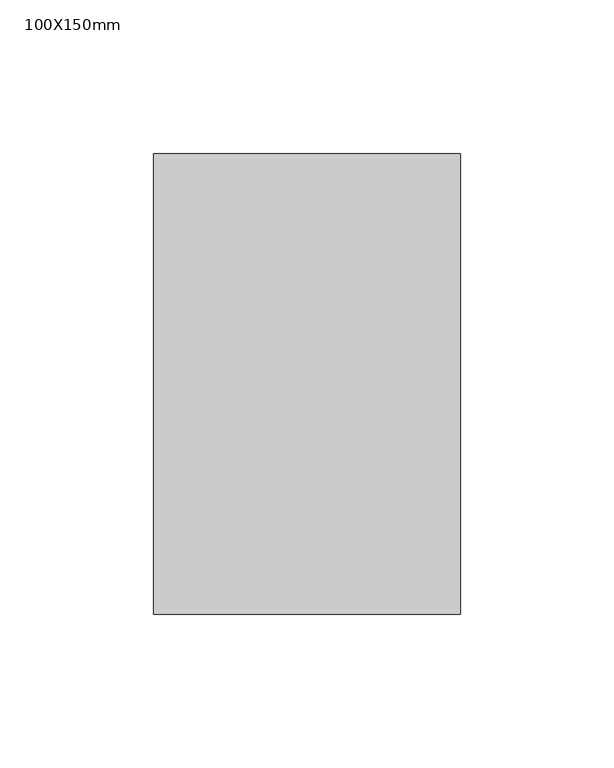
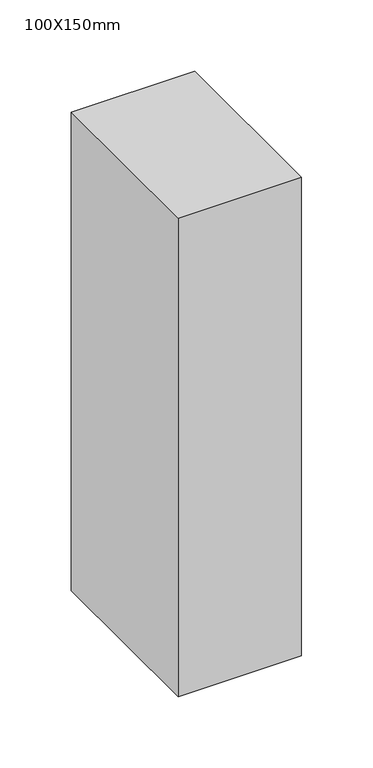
"""IFC4 building model written with IfcOpenShell, lengths in millimetres: member geometry, 矩形竖梃 : 100X150mm."""

from ifc_helpers import new_model, si_unit, frame, origin, place, context, project, spatial, polyline, outline, extrude, source, transform, mapped, element, save


def member_100x150mm_5a4b8349(model_context):
    return source(origin(), model_context, "Body", "SweptSolid", [
        extrude(outline(polyline([(50.0, 75.0), (50.0, -75.0), (-50.0, -75.0), (-50.0, 75.0), (50.0, 75.0)])), frame((0.0, 0.0, -410.0), z_axis=(0.0, 0.0, 1.0), x_axis=(1.0, 0.0, 0.0)), (0.0, 0.0, 1.0), 410.0),
    ])


if __name__ == "__main__":
    model = new_model("IFC4")
    model_context = context("Model", 3, world=origin())
    ifc_project = project(units=[si_unit("LENGTHUNIT", "METRE", prefix="MILLI")], contexts=[model_context])
    site = spatial("IfcSite", under=ifc_project)
    building = spatial("IfcBuilding", under=site)
    placement = place(None, origin())
    member_100x150mm_shape = member_100x150mm_5a4b8349(model_context)
    element("IfcMember", 1, ObjectType="矩形竖梃 : 100X150mm", at=placement, inside=building, context=model_context, shape_type="MappedRepresentation", body=[
        mapped(member_100x150mm_shape, transform((0.0, 0.0, 0.0), x_axis=(1.0, 0.0, 0.0), y_axis=(0.0, 1.0, 0.0), z_axis=(0.0, 0.0, 1.0))),
    ])
    save(model, "model.ifc")
